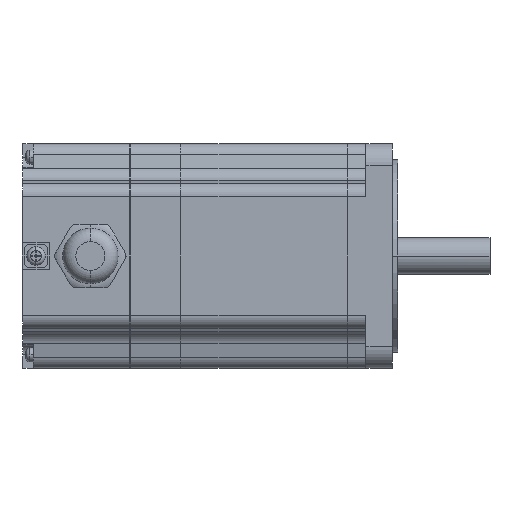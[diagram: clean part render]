
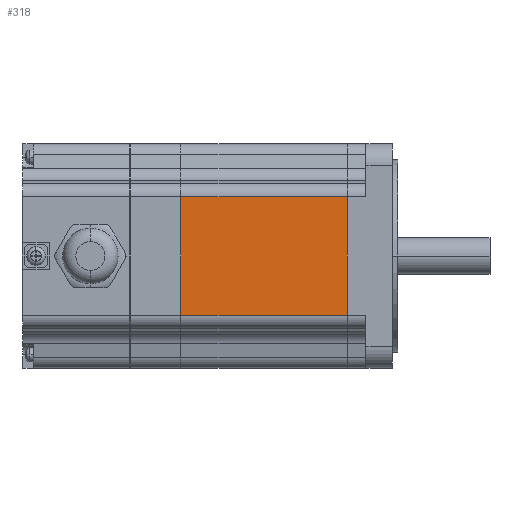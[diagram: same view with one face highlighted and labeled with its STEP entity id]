
A CAD part, front view. The second image highlights one B-rep face of the part: STEP entity #318.
In plain terms, the highlighted planar face has unit normal (0, -1, 0).
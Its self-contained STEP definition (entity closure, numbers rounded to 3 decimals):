
#318 = ADVANCED_FACE( '', ( #967 ), #968, .T. );
#967 = FACE_OUTER_BOUND( '', #1777, .T. );
#968 = PLANE( '', #1778 );
#1777 = EDGE_LOOP( '', ( #4208, #4209, #4210, #4211 ) );
#1778 = AXIS2_PLACEMENT_3D( '', #4212, #4213, #4214 );
#4208 = ORIENTED_EDGE( '', *, *, #6158, .T. );
#4209 = ORIENTED_EDGE( '', *, *, #6232, .F. );
#4210 = ORIENTED_EDGE( '', *, *, #6233, .T. );
#4211 = ORIENTED_EDGE( '', *, *, #6222, .T. );
#4212 = CARTESIAN_POINT( '', ( 0., -42.5, 34.3 ) );
#4213 = DIRECTION( '', ( 0., -1., 0. ) );
#4214 = DIRECTION( '', ( 0., 0., 1. ) );
#6158 = EDGE_CURVE( '', #7740, #7738, #7741, .T. );
#6222 = EDGE_CURVE( '', #7858, #7740, #7859, .T. );
#6232 = EDGE_CURVE( '', #7875, #7738, #7876, .T. );
#6233 = EDGE_CURVE( '', #7875, #7858, #7877, .T. );
#7738 = VERTEX_POINT( '', #10539 );
#7740 = VERTEX_POINT( '', #10541 );
#7741 = LINE( '', #10542, #10543 );
#7858 = VERTEX_POINT( '', #10699 );
#7859 = LINE( '', #10700, #10701 );
#7875 = VERTEX_POINT( '', #10724 );
#7876 = LINE( '', #10725, #10726 );
#7877 = LINE( '', #10727, #10728 );
#10539 = CARTESIAN_POINT( '', ( -17.05, -42.5, 22.5 ) );
#10541 = CARTESIAN_POINT( '', ( -17.05, -42.5, -22.5 ) );
#10542 = CARTESIAN_POINT( '', ( -17.05, -42.5, 17.15 ) );
#10543 = VECTOR( '', #12475, 1. );
#10699 = CARTESIAN_POINT( '', ( -80.1, -42.5, -22.5 ) );
#10700 = CARTESIAN_POINT( '', ( -75., -42.5, -22.5 ) );
#10701 = VECTOR( '', #12587, 1. );
#10724 = CARTESIAN_POINT( '', ( -80.1, -42.5, 22.5 ) );
#10725 = CARTESIAN_POINT( '', ( -75., -42.5, 22.5 ) );
#10726 = VECTOR( '', #12601, 1. );
#10727 = CARTESIAN_POINT( '', ( -80.1, -42.5, 17.15 ) );
#10728 = VECTOR( '', #12602, 1. );
#12475 = DIRECTION( '', ( 0., 0., 1. ) );
#12587 = DIRECTION( '', ( 1., 0., 0. ) );
#12601 = DIRECTION( '', ( 1., 0., 0. ) );
#12602 = DIRECTION( '', ( 0., 0., -1. ) );
